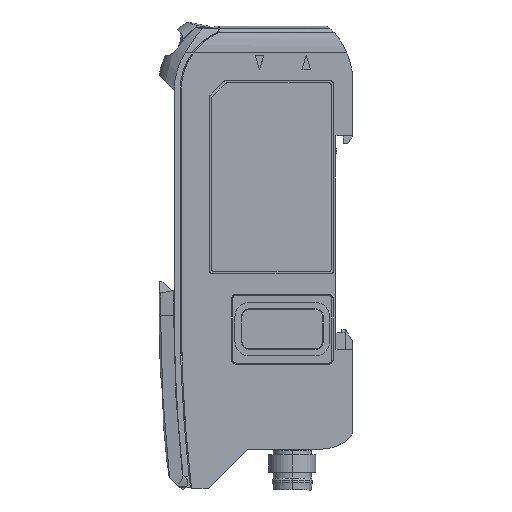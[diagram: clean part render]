
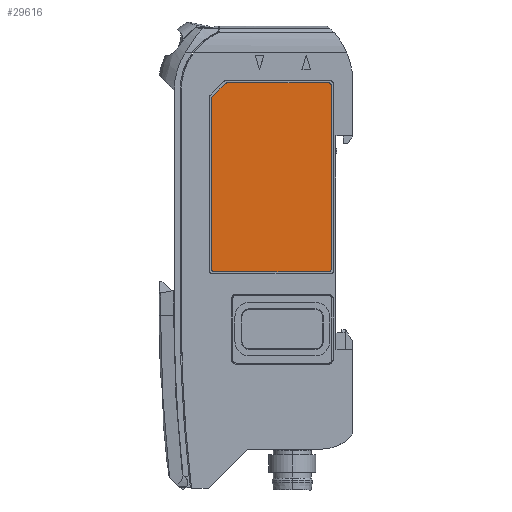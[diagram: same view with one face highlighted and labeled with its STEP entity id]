
A CAD part, left-side view. The second image highlights one B-rep face of the part: STEP entity #29616.
In plain terms, the highlighted planar face has unit normal (-1, 0, 0).
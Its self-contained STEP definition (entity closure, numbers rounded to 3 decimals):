
#381 = CARTESIAN_POINT ( 'NONE',  ( -10.425, 21.85, -9.843 ) ) ;
#847 = DIRECTION ( 'NONE',  ( 0., 0., -1. ) ) ;
#913 = CARTESIAN_POINT ( 'NONE',  ( -10.425, 24.203, -12.404 ) ) ;
#1723 = CARTESIAN_POINT ( 'NONE',  ( -10.425, 4.203, -42.097 ) ) ;
#2382 = EDGE_CURVE ( 'NONE', #38296, #18494, #5285, .T. ) ;
#2505 = DIRECTION ( 'NONE',  ( 0., 0., -1. ) ) ;
#3205 = VERTEX_POINT ( 'NONE', #381 ) ;
#4025 = ORIENTED_EDGE ( 'NONE', *, *, #22538, .F. ) ;
#4210 = CARTESIAN_POINT ( 'NONE',  ( -10.425, 23.703, -12.404 ) ) ;
#4378 = EDGE_CURVE ( 'NONE', #38296, #30590, #16697, .T. ) ;
#4794 = DIRECTION ( 'NONE',  ( 0., -1., 0. ) ) ;
#5259 = CIRCLE ( 'NONE', #18403, 0.5 ) ;
#5285 = LINE ( 'NONE', #1723, #32866 ) ;
#6483 = VERTEX_POINT ( 'NONE', #23201 ) ;
#7463 = CARTESIAN_POINT ( 'NONE',  ( -10.425, 3.703, -41.597 ) ) ;
#8230 = VERTEX_POINT ( 'NONE', #50070 ) ;
#9103 = LINE ( 'NONE', #24846, #48483 ) ;
#9182 = CARTESIAN_POINT ( 'NONE',  ( -10.425, 23.703, -41.597 ) ) ;
#9567 = DIRECTION ( 'NONE',  ( 0., 0., -1. ) ) ;
#9784 = VERTEX_POINT ( 'NONE', #913 ) ;
#9917 = ORIENTED_EDGE ( 'NONE', *, *, #22019, .T. ) ;
#10036 = CARTESIAN_POINT ( 'NONE',  ( -10.425, 4.203, -42.097 ) ) ;
#11717 = DIRECTION ( 'NONE',  ( 1., 0., 0. ) ) ;
#12436 = DIRECTION ( 'NONE',  ( 0., 0., -1. ) ) ;
#12542 = AXIS2_PLACEMENT_3D ( 'NONE', #18927, #11717, #31025 ) ;
#14674 = PLANE ( 'NONE',  #33060 ) ;
#15015 = CIRCLE ( 'NONE', #12542, 0.5 ) ;
#15403 = ORIENTED_EDGE ( 'NONE', *, *, #46367, .F. ) ;
#16415 = VECTOR ( 'NONE', #33566, 1000. ) ;
#16697 = CIRCLE ( 'NONE', #41362, 0.5 ) ;
#16882 = EDGE_CURVE ( 'NONE', #9784, #43469, #5259, .T. ) ;
#17649 = DIRECTION ( 'NONE',  ( 0., 0.707, -0.707 ) ) ;
#18084 = ORIENTED_EDGE ( 'NONE', *, *, #4378, .F. ) ;
#18403 = AXIS2_PLACEMENT_3D ( 'NONE', #4210, #47418, #27854 ) ;
#18494 = VERTEX_POINT ( 'NONE', #10036 ) ;
#18927 = CARTESIAN_POINT ( 'NONE',  ( -10.425, 4.203, -41.597 ) ) ;
#19612 = VECTOR ( 'NONE', #30513, 1000. ) ;
#20653 = CARTESIAN_POINT ( 'NONE',  ( -10.425, 24.203, -41.597 ) ) ;
#21176 = CARTESIAN_POINT ( 'NONE',  ( -10.425, 21.496, -10.197 ) ) ;
#21251 = VERTEX_POINT ( 'NONE', #46508 ) ;
#21870 = ORIENTED_EDGE ( 'NONE', *, *, #2382, .T. ) ;
#22019 = EDGE_CURVE ( 'NONE', #25961, #8230, #29990, .T. ) ;
#22500 = CARTESIAN_POINT ( 'NONE',  ( -10.425, 4.203, -9.697 ) ) ;
#22538 = EDGE_CURVE ( 'NONE', #3205, #6483, #48384, .T. ) ;
#22924 = CARTESIAN_POINT ( 'NONE',  ( -10.425, 23.703, -41.597 ) ) ;
#23201 = CARTESIAN_POINT ( 'NONE',  ( -10.425, 21.496, -9.697 ) ) ;
#23998 = EDGE_CURVE ( 'NONE', #3205, #43469, #9103, .T. ) ;
#24846 = CARTESIAN_POINT ( 'NONE',  ( -10.425, 24.203, -12.197 ) ) ;
#25961 = VERTEX_POINT ( 'NONE', #7463 ) ;
#27854 = DIRECTION ( 'NONE',  ( 0., 0., -1. ) ) ;
#27951 = EDGE_CURVE ( 'NONE', #9784, #30590, #43356, .T. ) ;
#28129 = ORIENTED_EDGE ( 'NONE', *, *, #27951, .T. ) ;
#28406 = EDGE_CURVE ( 'NONE', #21251, #6483, #33810, .T. ) ;
#29616 = ADVANCED_FACE ( 'NONE', ( #38054 ), #14674, .T. ) ;
#29808 = EDGE_CURVE ( 'NONE', #25961, #18494, #15015, .T. ) ;
#29990 = LINE ( 'NONE', #50281, #19612 ) ;
#30513 = DIRECTION ( 'NONE',  ( 0., 0., 1. ) ) ;
#30590 = VERTEX_POINT ( 'NONE', #37659 ) ;
#31025 = DIRECTION ( 'NONE',  ( 0., 0., -1. ) ) ;
#31694 = CARTESIAN_POINT ( 'NONE',  ( -10.425, 24.057, -12.05 ) ) ;
#32152 = DIRECTION ( 'NONE',  ( 1., 0., 0. ) ) ;
#32866 = VECTOR ( 'NONE', #4794, 1000. ) ;
#33060 = AXIS2_PLACEMENT_3D ( 'NONE', #22924, #42214, #38582 ) ;
#33566 = DIRECTION ( 'NONE',  ( 0., 1., 0. ) ) ;
#33810 = LINE ( 'NONE', #22500, #16415 ) ;
#35072 = VECTOR ( 'NONE', #12436, 1000. ) ;
#35393 = ORIENTED_EDGE ( 'NONE', *, *, #16882, .F. ) ;
#37405 = CARTESIAN_POINT ( 'NONE',  ( -10.425, 4.203, -10.197 ) ) ;
#37659 = CARTESIAN_POINT ( 'NONE',  ( -10.425, 24.203, -41.597 ) ) ;
#38054 = FACE_OUTER_BOUND ( 'NONE', #41067, .T. ) ;
#38195 = ORIENTED_EDGE ( 'NONE', *, *, #29808, .F. ) ;
#38296 = VERTEX_POINT ( 'NONE', #42333 ) ;
#38582 = DIRECTION ( 'NONE',  ( 0., 0., 1. ) ) ;
#38987 = ORIENTED_EDGE ( 'NONE', *, *, #28406, .T. ) ;
#40734 = AXIS2_PLACEMENT_3D ( 'NONE', #37405, #49261, #2505 ) ;
#41067 = EDGE_LOOP ( 'NONE', ( #28129, #18084, #21870, #38195, #9917, #15403, #38987, #4025, #41126, #35393 ) ) ;
#41126 = ORIENTED_EDGE ( 'NONE', *, *, #23998, .T. ) ;
#41362 = AXIS2_PLACEMENT_3D ( 'NONE', #9182, #32152, #847 ) ;
#42214 = DIRECTION ( 'NONE',  ( -1., 0., 0. ) ) ;
#42333 = CARTESIAN_POINT ( 'NONE',  ( -10.425, 23.703, -42.097 ) ) ;
#43356 = LINE ( 'NONE', #20653, #35072 ) ;
#43469 = VERTEX_POINT ( 'NONE', #31694 ) ;
#43492 = AXIS2_PLACEMENT_3D ( 'NONE', #21176, #48710, #9567 ) ;
#46367 = EDGE_CURVE ( 'NONE', #21251, #8230, #48211, .T. ) ;
#46508 = CARTESIAN_POINT ( 'NONE',  ( -10.425, 4.203, -9.697 ) ) ;
#47418 = DIRECTION ( 'NONE',  ( 1., 0., 0. ) ) ;
#48211 = CIRCLE ( 'NONE', #40734, 0.5 ) ;
#48384 = CIRCLE ( 'NONE', #43492, 0.5 ) ;
#48483 = VECTOR ( 'NONE', #17649, 1000. ) ;
#48710 = DIRECTION ( 'NONE',  ( 1., 0., 0. ) ) ;
#49261 = DIRECTION ( 'NONE',  ( 1., 0., 0. ) ) ;
#50070 = CARTESIAN_POINT ( 'NONE',  ( -10.425, 3.703, -10.197 ) ) ;
#50281 = CARTESIAN_POINT ( 'NONE',  ( -10.425, 3.703, -41.597 ) ) ;
